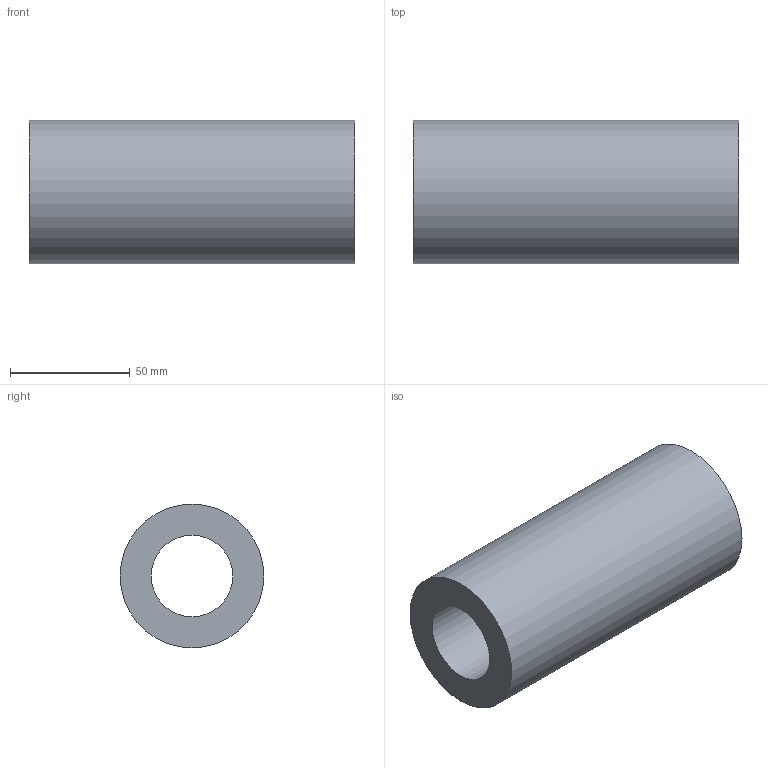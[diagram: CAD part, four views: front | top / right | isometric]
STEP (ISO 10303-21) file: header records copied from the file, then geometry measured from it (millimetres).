
FILE_DESCRIPTION(('Open CASCADE Model'),'2;1');
FILE_NAME('Open CASCADE Shape Model','2026-10-08T06:53:14',('Author'),( 'Open CASCADE'),'Open CASCADE STEP processor 7.8','Open CASCADE 7.8' ,'Unknown');
FILE_SCHEMA(('AUTOMOTIVE_DESIGN { 1 0 10303 214 1 1 1 1 }'));
Length unit declared in the file: millimetre
Products named in the file (1): Open CASCADE STEP translator 7.8 15
Bounding box: 136 x 60 x 60 mm (x, y, z)
Volume: 261053.8 mm3; surface area: 44001.1 mm2
Topology: 1 solids, 1 shells, 4 faces, 6 edges, 4 vertices
Faces by surface type: cylinder 2, plane 2
Full cylindrical faces by diameter (mm): 34 x1, 60 x1
Entity records: 186 total; most frequent: DIRECTION 32, CARTESIAN_POINT 27, ORIENTED_EDGE 12, PCURVE 12, DEFINITIONAL_REPRESENTATION 12, LINE 10, VECTOR 10, AXIS2_PLACEMENT_3D 9
